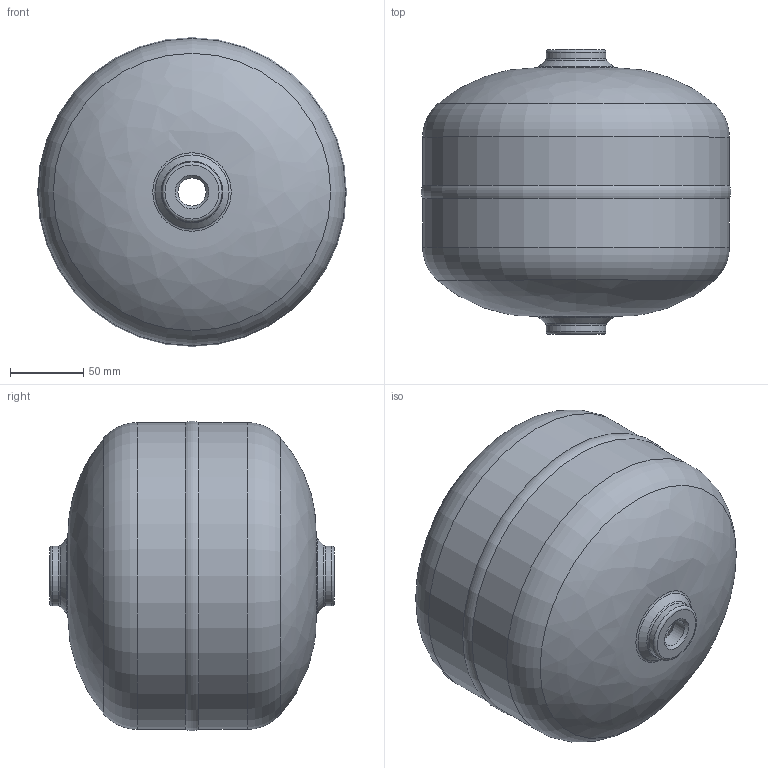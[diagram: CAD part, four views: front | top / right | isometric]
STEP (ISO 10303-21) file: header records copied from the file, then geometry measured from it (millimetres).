
FILE_DESCRIPTION(/* description */ (''),/* implementation_level */ '2;1');
FILE_NAME(/* name */ 'S:\_Tecnico\ArchivioUT\_Disegni3D ingombri\DISEGNI 3D per ingombri\SA\SA2U0050.stp',/* time_stamp */ '2021-09-16T11:38:56+02:00',/* author */ ('ufficiotecnico3'),/* organization */ (''),/* preprocessor_version */ 'ST-DEVELOPER v18',/* originating_system */ 'Autodesk Inventor 2020',/* authorisation */ '');
FILE_SCHEMA (('AUTOMOTIVE_DESIGN { 1 0 10303 214 3 1 1 }'));
Length unit declared in the file: millimetre
Products named in the file (1): SA2U0050
Bounding box: 211.92 x 195 x 211.92 mm (x, y, z)
Volume: 713946.5 mm3; surface area: 280699.7 mm2
Topology: 1 solids, 1 shells, 30 faces, 98 edges, 72 vertices
Faces by surface type: torus 9, cylinder 7, cone 6, plane 4, bspline 4
Full cylindrical faces by diameter (mm): 19.172 x2, 41 x2, 200 x1, 210 x2
Entity records: 1339 total; most frequent: CARTESIAN_POINT 305, DIRECTION 237, ORIENTED_EDGE 196, AXIS2_PLACEMENT_3D 112, EDGE_CURVE 98, CIRCLE 85, VERTEX_POINT 72, EDGE_LOOP 34
